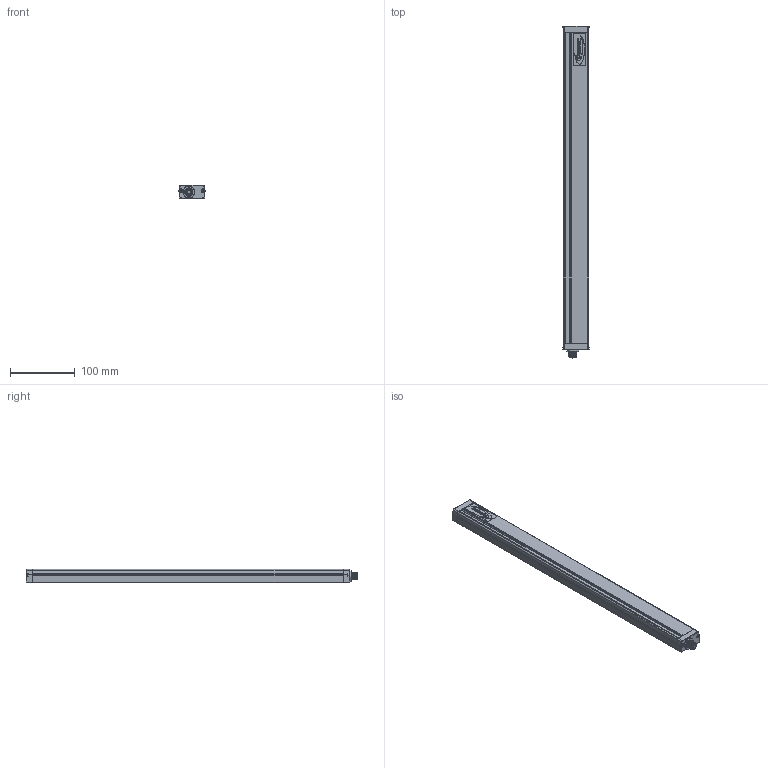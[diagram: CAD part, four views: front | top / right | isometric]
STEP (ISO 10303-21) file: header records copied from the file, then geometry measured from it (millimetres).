
FILE_DESCRIPTION(/* description */ (''),/* implementation_level */ '2;1');
FILE_NAME(/* name */ 'C:\Users\andre\SynologyDrive\Optoscan\Libreria Componenti\00 - Barriere\Polaris sorgente\Polaris_480_TX.stp',/* time_stamp */ '2021-06-04T10:56:01+02:00',/* author */ ('andre'),/* organization */ (''),/* preprocessor_version */ 'ST-DEVELOPER v18',/* originating_system */ 'Autodesk Inventor 2020',/* authorisation */ '');
FILE_SCHEMA (('AUTOMOTIVE_DESIGN { 1 0 10303 214 3 1 1 }'));
Length unit declared in the file: millimetre
Products named in the file (1): Polaris_480_TX
Bounding box: 40.5 x 512.8 x 20.75 mm (x, y, z)
Volume: 104667.9 mm3; surface area: 134296.7 mm2
Topology: 1 solids, 1 shells, 743 faces, 2072 edges, 1332 vertices
Faces by surface type: plane 332, cylinder 208, bspline 115, torus 74, cone 8, sphere 6
Full cylindrical faces by diameter (mm): 1 x8, 2.459 x4, 2.5 x4, 3 x4, 3.5 x4, 5.5 x4, 8 x1, 10.5 x2, 11.75 x9, 12 x1, 12.3 x3, 14.5 x1, 16.7 x1, 17.5 x1
Entity records: 30714 total; most frequent: CARTESIAN_POINT 11308, ORIENTED_EDGE 4130, DIRECTION 3590, EDGE_CURVE 2065, VERTEX_POINT 1333, AXIS2_PLACEMENT_3D 1263, LINE 1064, VECTOR 1064
